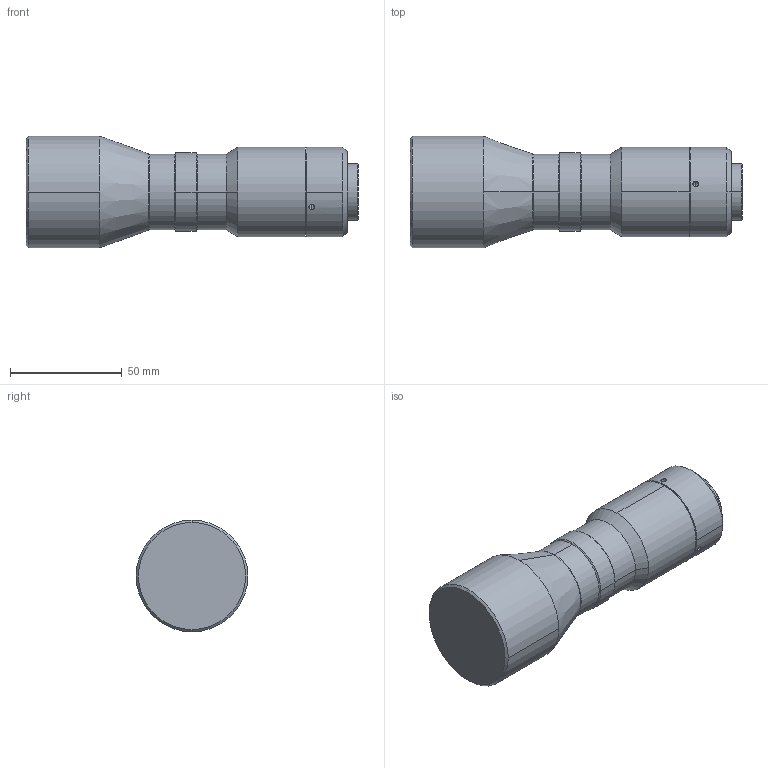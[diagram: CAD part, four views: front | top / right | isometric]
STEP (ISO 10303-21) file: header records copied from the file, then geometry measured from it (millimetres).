
FILE_DESCRIPTION (( 'STEP AP203' ), '1' );
FILE_NAME ('DTCM111-39-AL.STEP', '2019-12-02T03:12:54', ( 'Windows 蚚誧' ), ( '' ), 'SwSTEP 2.0', 'SolidWorks 2017', '' );
FILE_SCHEMA (( 'CONFIG_CONTROL_DESIGN' ));
Length unit declared in the file: millimetre
Products named in the file (1): DTCM111-39-AL
Bounding box: 148.6 x 50 x 50 mm (x, y, z)
Volume: 196622.9 mm3; surface area: 23103.3 mm2
Topology: 1 solids, 1 shells, 51 faces, 122 edges, 73 vertices
Faces by surface type: cone 22, cylinder 22, plane 5, bspline 2
Entity records: 1639 total; most frequent: CARTESIAN_POINT 379, DIRECTION 272, ORIENTED_EDGE 232, EDGE_CURVE 116, AXIS2_PLACEMENT_3D 114, VERTEX_POINT 73, CIRCLE 64, EDGE_LOOP 57
